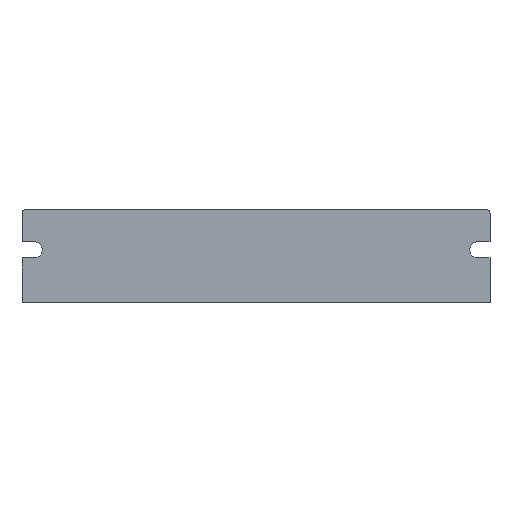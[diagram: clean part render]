
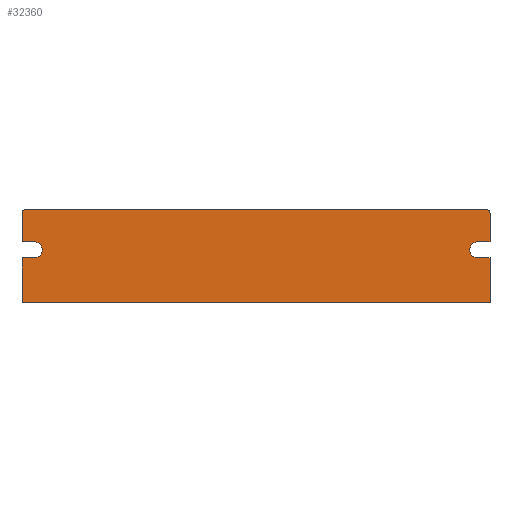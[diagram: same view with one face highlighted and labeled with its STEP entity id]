
A CAD part, front view. The second image highlights one B-rep face of the part: STEP entity #32360.
In plain terms, the highlighted planar face has unit normal (0, -1, 0).
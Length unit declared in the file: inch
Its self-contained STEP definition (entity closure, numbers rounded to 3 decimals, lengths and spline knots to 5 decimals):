
#703=CIRCLE('',#34755,0.09055);
#823=CIRCLE('',#34898,0.03937);
#824=CIRCLE('',#34899,0.03937);
#825=CIRCLE('',#34900,0.09055);
#2888=FACE_OUTER_BOUND('',#4834,.T.);
#4834=EDGE_LOOP('',(#26812,#26813,#26814,#26815,#26816,#26817,#26818,#26819,
#26820,#26821,#26822,#26823,#26824,#26825));
#7954=LINE('',#51264,#11623);
#8081=LINE('',#51725,#11750);
#8083=LINE('',#51730,#11752);
#8090=LINE('',#51741,#11759);
#8097=LINE('',#51753,#11766);
#8098=LINE('',#51757,#11767);
#8099=LINE('',#51760,#11768);
#8100=LINE('',#51763,#11769);
#8101=LINE('',#51764,#11770);
#8102=LINE('',#51765,#11771);
#11623=VECTOR('',#41760,5.27559);
#11750=VECTOR('',#42113,0.5);
#11752=VECTOR('',#42117,0.32283);
#11759=VECTOR('',#42130,0.5);
#11766=VECTOR('',#42143,0.32283);
#11767=VECTOR('',#42146,5.19685);
#11768=VECTOR('',#42149,0.1378);
#11769=VECTOR('',#42152,0.1378);
#11770=VECTOR('',#42153,0.1378);
#11771=VECTOR('',#42154,0.1378);
#14879=VERTEX_POINT('',#51160);
#14880=VERTEX_POINT('',#51161);
#14916=VERTEX_POINT('',#51261);
#14917=VERTEX_POINT('',#51263);
#15138=VERTEX_POINT('',#51723);
#15139=VERTEX_POINT('',#51728);
#15140=VERTEX_POINT('',#51729);
#15141=VERTEX_POINT('',#51740);
#15142=VERTEX_POINT('',#51751);
#15143=VERTEX_POINT('',#51752);
#15144=VERTEX_POINT('',#51754);
#15145=VERTEX_POINT('',#51756);
#15146=VERTEX_POINT('',#51759);
#15147=VERTEX_POINT('',#51761);
#18967=EDGE_CURVE('',#14879,#14880,#703,.T.);
#19019=EDGE_CURVE('',#14917,#14916,#7954,.T.);
#19256=EDGE_CURVE('',#15138,#14916,#8081,.T.);
#19258=EDGE_CURVE('',#15139,#15140,#8083,.T.);
#19265=EDGE_CURVE('',#15141,#14917,#8090,.T.);
#19272=EDGE_CURVE('',#15142,#15143,#8097,.T.);
#19273=EDGE_CURVE('',#15142,#15144,#823,.T.);
#19274=EDGE_CURVE('',#15145,#15144,#8098,.T.);
#19275=EDGE_CURVE('',#15145,#15139,#824,.T.);
#19276=EDGE_CURVE('',#15140,#15146,#8099,.T.);
#19277=EDGE_CURVE('',#15146,#15147,#825,.T.);
#19278=EDGE_CURVE('',#15147,#15141,#8100,.T.);
#19279=EDGE_CURVE('',#15138,#14879,#8101,.T.);
#19280=EDGE_CURVE('',#14880,#15143,#8102,.T.);
#26812=ORIENTED_EDGE('',*,*,#19272,.F.);
#26813=ORIENTED_EDGE('',*,*,#19273,.T.);
#26814=ORIENTED_EDGE('',*,*,#19274,.F.);
#26815=ORIENTED_EDGE('',*,*,#19275,.T.);
#26816=ORIENTED_EDGE('',*,*,#19258,.T.);
#26817=ORIENTED_EDGE('',*,*,#19276,.T.);
#26818=ORIENTED_EDGE('',*,*,#19277,.T.);
#26819=ORIENTED_EDGE('',*,*,#19278,.T.);
#26820=ORIENTED_EDGE('',*,*,#19265,.T.);
#26821=ORIENTED_EDGE('',*,*,#19019,.T.);
#26822=ORIENTED_EDGE('',*,*,#19256,.F.);
#26823=ORIENTED_EDGE('',*,*,#19279,.T.);
#26824=ORIENTED_EDGE('',*,*,#18967,.T.);
#26825=ORIENTED_EDGE('',*,*,#19280,.T.);
#30740=PLANE('',#34897);
#32360=ADVANCED_FACE('',(#2888),#30740,.F.);
#34755=AXIS2_PLACEMENT_3D('',#51162,#41672,#41673);
#34897=AXIS2_PLACEMENT_3D('',#51750,#42141,#42142);
#34898=AXIS2_PLACEMENT_3D('',#51755,#42144,#42145);
#34899=AXIS2_PLACEMENT_3D('',#51758,#42147,#42148);
#34900=AXIS2_PLACEMENT_3D('',#51762,#42150,#42151);
#41672=DIRECTION('center_axis',(0.,1.,0.));
#41673=DIRECTION('ref_axis',(-1.,0.,0.));
#41760=DIRECTION('',(1.,0.,0.));
#42113=DIRECTION('',(0.,0.,-1.));
#42117=DIRECTION('',(0.,0.,-1.));
#42130=DIRECTION('',(0.,0.,-1.));
#42141=DIRECTION('center_axis',(0.,1.,0.));
#42142=DIRECTION('ref_axis',(0.,0.,1.));
#42143=DIRECTION('',(0.,0.,-1.));
#42144=DIRECTION('center_axis',(0.,-1.,0.));
#42145=DIRECTION('ref_axis',(0.,0.,1.));
#42146=DIRECTION('',(1.,0.,0.));
#42147=DIRECTION('center_axis',(0.,-1.,0.));
#42148=DIRECTION('ref_axis',(0.,0.,1.));
#42149=DIRECTION('',(1.,0.,0.));
#42150=DIRECTION('center_axis',(0.,1.,0.));
#42151=DIRECTION('ref_axis',(-1.,0.,0.));
#42152=DIRECTION('',(-1.,0.,0.));
#42153=DIRECTION('',(-1.,0.,0.));
#42154=DIRECTION('',(1.,0.,0.));
#51160=CARTESIAN_POINT('',(5.23386,1.74758,3.00331));
#51161=CARTESIAN_POINT('',(5.23386,1.74758,3.18441));
#51162=CARTESIAN_POINT('Origin',(5.23386,1.74758,3.09386));
#51261=CARTESIAN_POINT('',(5.37166,1.74758,2.50331));
#51263=CARTESIAN_POINT('',(0.09607,1.74758,2.50331));
#51264=CARTESIAN_POINT('',(0.09607,1.74758,2.50331));
#51723=CARTESIAN_POINT('',(5.37166,1.74758,3.00331));
#51725=CARTESIAN_POINT('',(5.37166,1.74758,3.54661));
#51728=CARTESIAN_POINT('',(0.09607,1.74758,3.50724));
#51729=CARTESIAN_POINT('',(0.09607,1.74758,3.18441));
#51730=CARTESIAN_POINT('',(0.09607,1.74758,3.54661));
#51740=CARTESIAN_POINT('',(0.09607,1.74758,3.00331));
#51741=CARTESIAN_POINT('',(0.09607,1.74758,3.54661));
#51750=CARTESIAN_POINT('Origin',(0.09607,1.74758,3.54661));
#51751=CARTESIAN_POINT('',(5.37166,1.74758,3.50724));
#51752=CARTESIAN_POINT('',(5.37166,1.74758,3.18441));
#51753=CARTESIAN_POINT('',(5.37166,1.74758,3.54661));
#51754=CARTESIAN_POINT('',(5.33229,1.74758,3.54661));
#51755=CARTESIAN_POINT('Origin',(5.33229,1.74758,3.50724));
#51756=CARTESIAN_POINT('',(0.13544,1.74758,3.54661));
#51757=CARTESIAN_POINT('',(0.09607,1.74758,3.54661));
#51758=CARTESIAN_POINT('Origin',(0.13544,1.74758,3.50724));
#51759=CARTESIAN_POINT('',(0.23386,1.74758,3.18441));
#51760=CARTESIAN_POINT('',(0.09607,1.74758,3.18441));
#51761=CARTESIAN_POINT('',(0.23386,1.74758,3.00331));
#51762=CARTESIAN_POINT('Origin',(0.23386,1.74758,3.09386));
#51763=CARTESIAN_POINT('',(0.23386,1.74758,3.00331));
#51764=CARTESIAN_POINT('',(5.23386,1.74758,3.00331));
#51765=CARTESIAN_POINT('',(5.23386,1.74758,3.18441));
